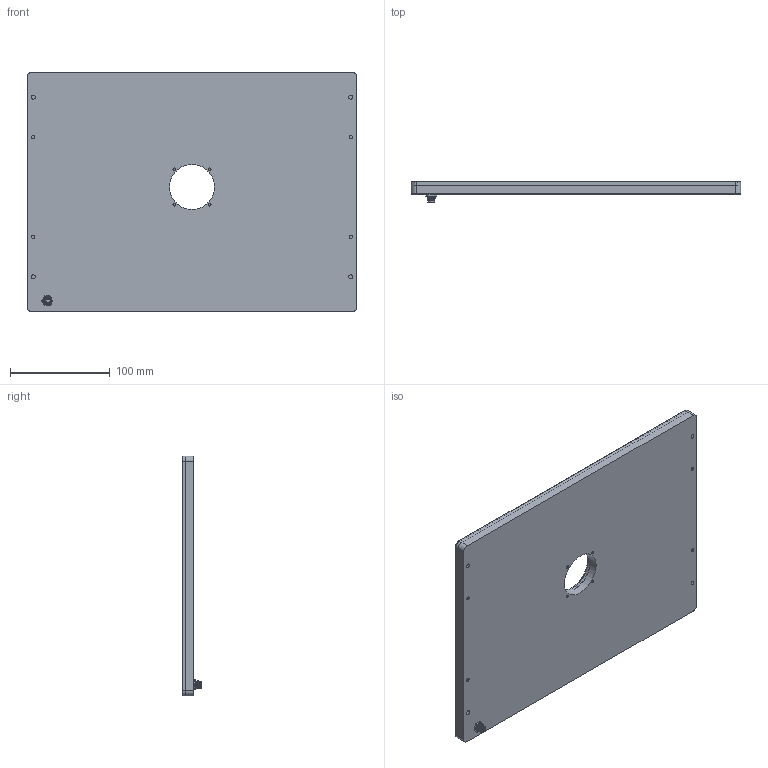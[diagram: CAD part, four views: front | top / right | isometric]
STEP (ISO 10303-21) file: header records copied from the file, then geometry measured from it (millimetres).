
FILE_DESCRIPTION (( 'STEP AP214' ), '1' );
FILE_NAME ('01832.01 Basisbaugruppe DTL-2030 Step17082020.STEP', '2020-08-17T08:43:43', ( '' ), ( '' ), 'SwSTEP 2.0', 'SolidWorks 2013', '' );
FILE_SCHEMA (( 'AUTOMOTIVE_DESIGN' ));
Length unit declared in the file: millimetre
Products named in the file (1): 01832.01 Basisbaugruppe DTL-2030 Step17082020
Bounding box: 330 x 20 x 240 mm (x, y, z)
Surface area: 194577.6 mm2 (no closed solid volume)
Topology: 0 solids, 9 shells, 80 faces, 209 edges, 145 vertices
Faces by surface type: cylinder 39, plane 34, cone 5, bspline 2
Full cylindrical faces by diameter (mm): 1 x4, 2.5 x4, 3.2 x4, 4.2 x4, 5.8 x1, 6.5 x2, 6.9 x1, 8 x1, 45 x1, 46.6 x1, 47 x1, 53 x1
Entity records: 3858 total; most frequent: CARTESIAN_POINT 1135, DIRECTION 400, ORIENTED_EDGE 278, AXIS2_PLACEMENT_3D 168, EDGE_CURVE 168, VERTEX_POINT 136, EDGE_LOOP 133, FACE_OUTER_BOUND 107
